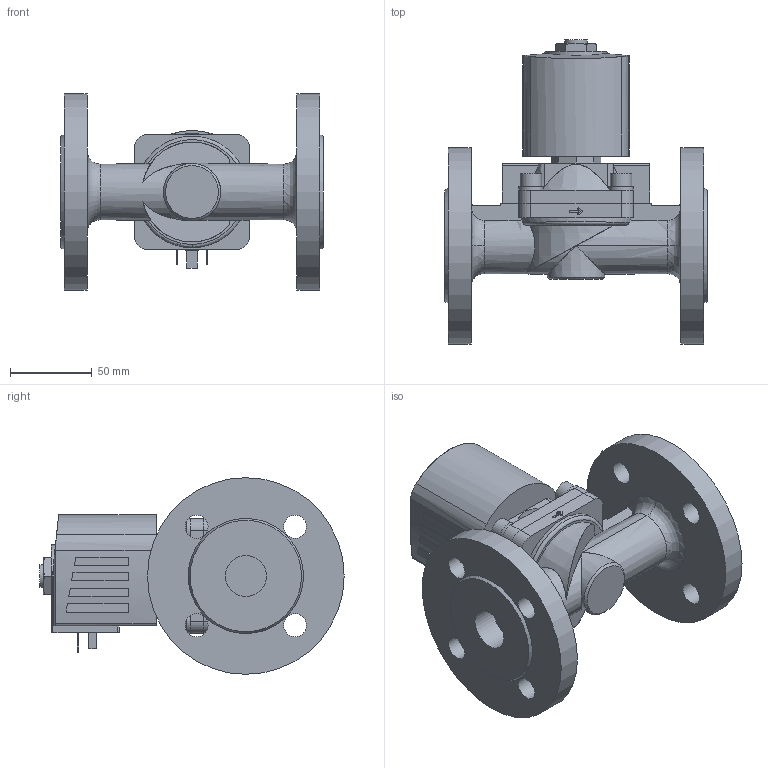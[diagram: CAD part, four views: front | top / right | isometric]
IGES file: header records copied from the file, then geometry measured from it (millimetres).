
Start section: Data from Parasolid IGES Translator 26.0.171, Copyright(c) 2006 Siemens PLM Software. All Rights Reserved.
Global section: file name: 6407-379382-Servo-assisted_2_2_way_piston_valve.igs; native system: By Siemens PLM Incorporated; preprocessor: XPlus GENERIC/IGES 26.0.171; author: Noname; organization: Noname; date: 20240702.124128; units: millimetre
Bounding box: 160 x 185.7 x 120 mm (x, y, z)
Surface area: 126114.9 mm2 (no closed solid volume)
Topology: 0 solids, 0 shells, 280 faces, 1446 edges, 1398 vertices
Faces by surface type: extrusion 170, revolution 110
